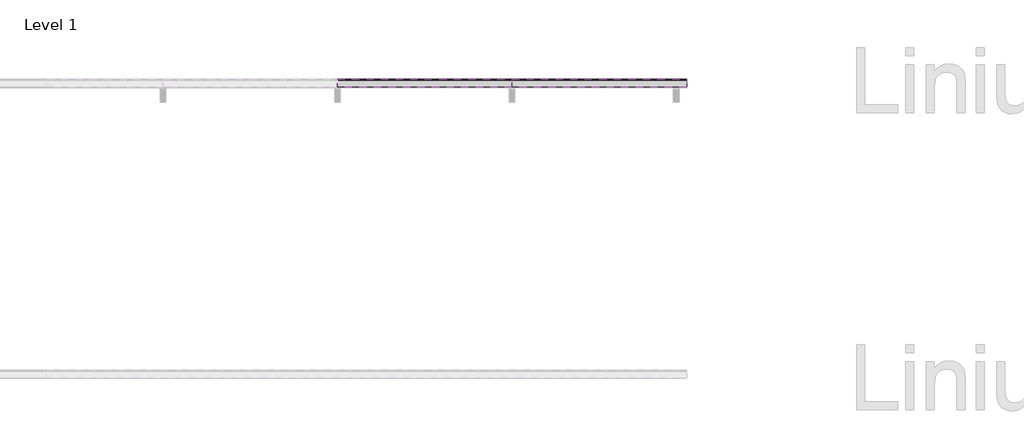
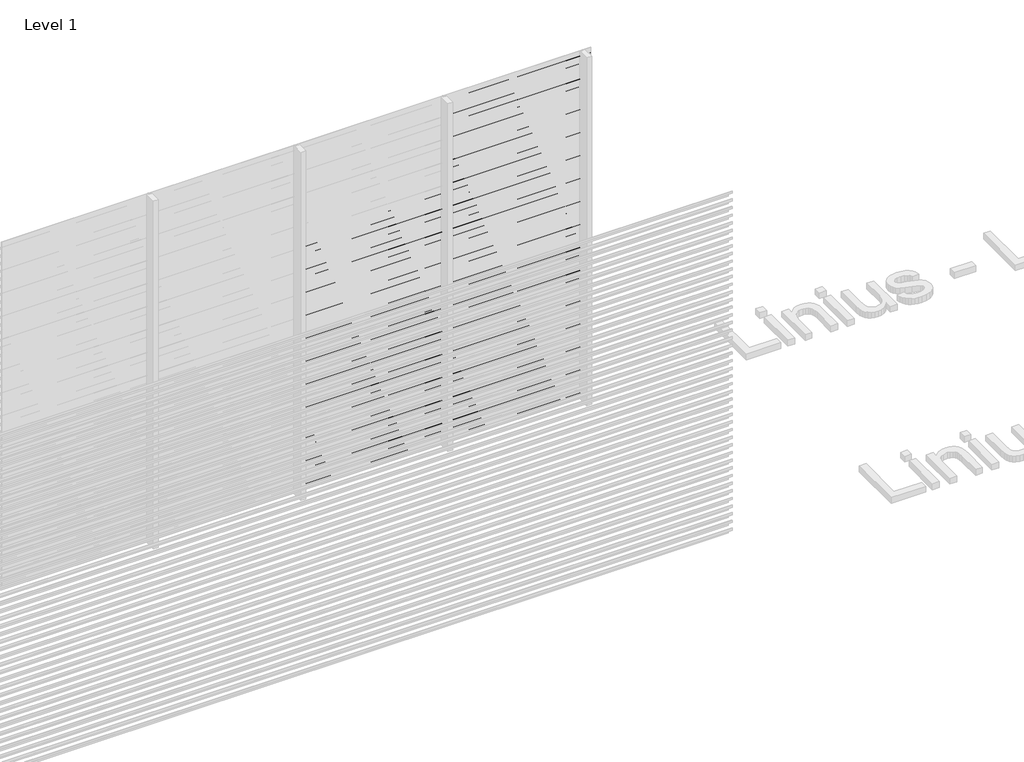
# One storey, part 39 of 540: 78 proxies.
"""IFC4 building model written with IfcOpenShell, lengths in millimetres."""

from ifc_helpers import new_model, si_unit, frame, origin, place, context, project, spatial, polyline, outline, extrude, element, save

model = new_model("IFC4")

# Units and contexts
model_context = context("Model", 3, world=origin())
ifc_project = project(units=[si_unit("LENGTHUNIT", "METRE", prefix="MILLI")], contexts=[model_context])

# Site, building, storey
site = spatial("IfcSite", under=ifc_project)
building = spatial("IfcBuilding", under=site)
storey = spatial("IfcBuildingStorey", under=building, Name="Level 1", Elevation=0.0)

# Proxies
placement = place(None, origin())
element("IfcBuildingElementProxy", 1, Name="Wall Sweeps", at=placement, inside=storey, context=model_context, shape_type="SweptSolid", body=[
    extrude(outline(polyline([(29081.0540136, 2913.5), (29081.0540136, 2893.5), (29079.8040136, 2894.2216933), (29079.8040136, 2912.7872415), (29026.0540136, 2950.3158044), (29026.0540136, 2970.0), (29027.3040136, 2970.0), (29027.3040136, 2951.0285629), (29081.0540136, 2913.5)])), frame((5266.6208095, 0.0, 0.0), z_axis=(1.0, 0.0, 0.0), x_axis=(0.0, 1.0, 0.0)), (0.0, 0.0, 1.0), 1200.0000002),
])
element("IfcBuildingElementProxy", 2, Name="Wall Sweeps", at=placement, inside=storey, context=model_context, shape_type="SweptSolid", body=[
    extrude(outline(polyline([(29081.0540136, 2847.5), (29081.0540136, 2827.5), (29079.8040136, 2828.2216933), (29079.8040136, 2846.7872415), (29026.0540136, 2884.3158044), (29026.0540136, 2904.0), (29027.3040136, 2904.0), (29027.3040136, 2885.0285629), (29081.0540136, 2847.5)])), frame((5266.6208095, 0.0, 0.0), z_axis=(1.0, 0.0, 0.0), x_axis=(0.0, 1.0, 0.0)), (0.0, 0.0, 1.0), 1200.0000002),
])
element("IfcBuildingElementProxy", 3, Name="Wall Sweeps", at=placement, inside=storey, context=model_context, shape_type="SweptSolid", body=[
    extrude(outline(polyline([(29081.0540136, 2781.5), (29081.0540136, 2761.5), (29079.8040136, 2762.2216933), (29079.8040136, 2780.7872415), (29026.0540136, 2818.3158044), (29026.0540136, 2838.0), (29027.3040136, 2838.0), (29027.3040136, 2819.0285629), (29081.0540136, 2781.5)])), frame((5266.6208095, 0.0, 0.0), z_axis=(1.0, 0.0, 0.0), x_axis=(0.0, 1.0, 0.0)), (0.0, 0.0, 1.0), 1200.0000002),
])
element("IfcBuildingElementProxy", 4, Name="Wall Sweeps", at=placement, inside=storey, context=model_context, shape_type="SweptSolid", body=[
    extrude(outline(polyline([(29081.0540136, 2715.5), (29081.0540136, 2695.5), (29079.8040136, 2696.2216933), (29079.8040136, 2714.7872415), (29026.0540136, 2752.3158044), (29026.0540136, 2772.0), (29027.3040136, 2772.0), (29027.3040136, 2753.0285629), (29081.0540136, 2715.5)])), frame((5266.6208095, 0.0, 0.0), z_axis=(1.0, 0.0, 0.0), x_axis=(0.0, 1.0, 0.0)), (0.0, 0.0, 1.0), 1200.0000002),
])
element("IfcBuildingElementProxy", 5, Name="Wall Sweeps", at=placement, inside=storey, context=model_context, shape_type="SweptSolid", body=[
    extrude(outline(polyline([(29081.0540136, 2649.5), (29081.0540136, 2629.5), (29079.8040136, 2630.2216933), (29079.8040136, 2648.7872415), (29026.0540136, 2686.3158044), (29026.0540136, 2706.0), (29027.3040136, 2706.0), (29027.3040136, 2687.0285629), (29081.0540136, 2649.5)])), frame((5266.6208095, 0.0, 0.0), z_axis=(1.0, 0.0, 0.0), x_axis=(0.0, 1.0, 0.0)), (0.0, 0.0, 1.0), 1200.0000002),
])
element("IfcBuildingElementProxy", 6, Name="Wall Sweeps", at=placement, inside=storey, context=model_context, shape_type="SweptSolid", body=[
    extrude(outline(polyline([(29081.0540136, 2583.5), (29081.0540136, 2563.5), (29079.8040136, 2564.2216933), (29079.8040136, 2582.7872415), (29026.0540136, 2620.3158044), (29026.0540136, 2640.0), (29027.3040136, 2640.0), (29027.3040136, 2621.0285629), (29081.0540136, 2583.5)])), frame((5266.6208095, 0.0, 0.0), z_axis=(1.0, 0.0, 0.0), x_axis=(0.0, 1.0, 0.0)), (0.0, 0.0, 1.0), 1200.0000002),
])
element("IfcBuildingElementProxy", 7, Name="Wall Sweeps", at=placement, inside=storey, context=model_context, shape_type="SweptSolid", body=[
    extrude(outline(polyline([(29081.0540136, 2517.5), (29081.0540136, 2497.5), (29079.8040136, 2498.2216933), (29079.8040136, 2516.7872415), (29026.0540136, 2554.3158044), (29026.0540136, 2574.0), (29027.3040136, 2574.0), (29027.3040136, 2555.0285629), (29081.0540136, 2517.5)])), frame((5266.6208095, 0.0, 0.0), z_axis=(1.0, 0.0, 0.0), x_axis=(0.0, 1.0, 0.0)), (0.0, 0.0, 1.0), 1200.0000002),
])
element("IfcBuildingElementProxy", 8, Name="Wall Sweeps", at=placement, inside=storey, context=model_context, shape_type="SweptSolid", body=[
    extrude(outline(polyline([(29081.0540136, 2451.5), (29081.0540136, 2431.5), (29079.8040136, 2432.2216933), (29079.8040136, 2450.7872415), (29026.0540136, 2488.3158044), (29026.0540136, 2508.0), (29027.3040136, 2508.0), (29027.3040136, 2489.0285629), (29081.0540136, 2451.5)])), frame((5266.6208095, 0.0, 0.0), z_axis=(1.0, 0.0, 0.0), x_axis=(0.0, 1.0, 0.0)), (0.0, 0.0, 1.0), 1200.0000002),
])
element("IfcBuildingElementProxy", 9, Name="Wall Sweeps", at=placement, inside=storey, context=model_context, shape_type="SweptSolid", body=[
    extrude(outline(polyline([(29081.0540136, 2385.5), (29081.0540136, 2365.5), (29079.8040136, 2366.2216933), (29079.8040136, 2384.7872415), (29026.0540136, 2422.3158044), (29026.0540136, 2442.0), (29027.3040136, 2442.0), (29027.3040136, 2423.0285629), (29081.0540136, 2385.5)])), frame((5266.6208095, 0.0, 0.0), z_axis=(1.0, 0.0, 0.0), x_axis=(0.0, 1.0, 0.0)), (0.0, 0.0, 1.0), 1200.0000002),
])
element("IfcBuildingElementProxy", 10, Name="Wall Sweeps", at=placement, inside=storey, context=model_context, shape_type="SweptSolid", body=[
    extrude(outline(polyline([(29081.0540136, 2319.5), (29081.0540136, 2299.5), (29079.8040136, 2300.2216933), (29079.8040136, 2318.7872415), (29026.0540136, 2356.3158044), (29026.0540136, 2376.0), (29027.3040136, 2376.0), (29027.3040136, 2357.0285629), (29081.0540136, 2319.5)])), frame((5266.6208095, 0.0, 0.0), z_axis=(1.0, 0.0, 0.0), x_axis=(0.0, 1.0, 0.0)), (0.0, 0.0, 1.0), 1200.0000002),
])
element("IfcBuildingElementProxy", 11, Name="Wall Sweeps", at=placement, inside=storey, context=model_context, shape_type="SweptSolid", body=[
    extrude(outline(polyline([(29081.0540136, 2253.5), (29081.0540136, 2233.5), (29079.8040136, 2234.2216933), (29079.8040136, 2252.7872415), (29026.0540136, 2290.3158044), (29026.0540136, 2310.0), (29027.3040136, 2310.0), (29027.3040136, 2291.0285629), (29081.0540136, 2253.5)])), frame((5266.6208095, 0.0, 0.0), z_axis=(1.0, 0.0, 0.0), x_axis=(0.0, 1.0, 0.0)), (0.0, 0.0, 1.0), 1200.0000002),
])
element("IfcBuildingElementProxy", 12, Name="Wall Sweeps", at=placement, inside=storey, context=model_context, shape_type="SweptSolid", body=[
    extrude(outline(polyline([(29081.0540136, 2187.5), (29081.0540136, 2167.5), (29079.8040136, 2168.2216933), (29079.8040136, 2186.7872415), (29026.0540136, 2224.3158044), (29026.0540136, 2244.0), (29027.3040136, 2244.0), (29027.3040136, 2225.0285629), (29081.0540136, 2187.5)])), frame((5266.6208095, 0.0, 0.0), z_axis=(1.0, 0.0, 0.0), x_axis=(0.0, 1.0, 0.0)), (0.0, 0.0, 1.0), 1200.0000002),
])
element("IfcBuildingElementProxy", 13, Name="Wall Sweeps", at=placement, inside=storey, context=model_context, shape_type="SweptSolid", body=[
    extrude(outline(polyline([(29081.0540136, 2121.5), (29081.0540136, 2101.5), (29079.8040136, 2102.2216933), (29079.8040136, 2120.7872415), (29026.0540136, 2158.3158044), (29026.0540136, 2178.0), (29027.3040136, 2178.0), (29027.3040136, 2159.0285629), (29081.0540136, 2121.5)])), frame((5266.6208095, 0.0, 0.0), z_axis=(1.0, 0.0, 0.0), x_axis=(0.0, 1.0, 0.0)), (0.0, 0.0, 1.0), 1200.0000002),
])
element("IfcBuildingElementProxy", 14, Name="Wall Sweeps", at=placement, inside=storey, context=model_context, shape_type="SweptSolid", body=[
    extrude(outline(polyline([(29081.0540136, 2055.5), (29081.0540136, 2035.5), (29079.8040136, 2036.2216933), (29079.8040136, 2054.7872415), (29026.0540136, 2092.3158044), (29026.0540136, 2112.0), (29027.3040136, 2112.0), (29027.3040136, 2093.0285629), (29081.0540136, 2055.5)])), frame((5266.6208095, 0.0, 0.0), z_axis=(1.0, 0.0, 0.0), x_axis=(0.0, 1.0, 0.0)), (0.0, 0.0, 1.0), 1200.0000002),
])
element("IfcBuildingElementProxy", 15, Name="Wall Sweeps", at=placement, inside=storey, context=model_context, shape_type="SweptSolid", body=[
    extrude(outline(polyline([(29081.0540136, 1989.5), (29081.0540136, 1969.5), (29079.8040136, 1970.2216933), (29079.8040136, 1988.7872415), (29026.0540136, 2026.3158044), (29026.0540136, 2046.0), (29027.3040136, 2046.0), (29027.3040136, 2027.0285629), (29081.0540136, 1989.5)])), frame((5266.6208095, 0.0, 0.0), z_axis=(1.0, 0.0, 0.0), x_axis=(0.0, 1.0, 0.0)), (0.0, 0.0, 1.0), 1200.0000002),
])
element("IfcBuildingElementProxy", 16, Name="Wall Sweeps", at=placement, inside=storey, context=model_context, shape_type="SweptSolid", body=[
    extrude(outline(polyline([(29081.0540136, 1923.5), (29081.0540136, 1903.5), (29079.8040136, 1904.2216933), (29079.8040136, 1922.7872415), (29026.0540136, 1960.3158044), (29026.0540136, 1980.0), (29027.3040136, 1980.0), (29027.3040136, 1961.0285629), (29081.0540136, 1923.5)])), frame((5266.6208095, 0.0, 0.0), z_axis=(1.0, 0.0, 0.0), x_axis=(0.0, 1.0, 0.0)), (0.0, 0.0, 1.0), 1200.0000002),
])
element("IfcBuildingElementProxy", 17, Name="Wall Sweeps", at=placement, inside=storey, context=model_context, shape_type="SweptSolid", body=[
    extrude(outline(polyline([(29081.0540136, 1857.5), (29081.0540136, 1837.5), (29079.8040136, 1838.2216933), (29079.8040136, 1856.7872415), (29026.0540136, 1894.3158044), (29026.0540136, 1914.0), (29027.3040136, 1914.0), (29027.3040136, 1895.0285629), (29081.0540136, 1857.5)])), frame((5266.6208095, 0.0, 0.0), z_axis=(1.0, 0.0, 0.0), x_axis=(0.0, 1.0, 0.0)), (0.0, 0.0, 1.0), 1200.0000002),
])
element("IfcBuildingElementProxy", 18, Name="Wall Sweeps", at=placement, inside=storey, context=model_context, shape_type="SweptSolid", body=[
    extrude(outline(polyline([(29081.0540136, 1791.5), (29081.0540136, 1771.5), (29079.8040136, 1772.2216933), (29079.8040136, 1790.7872415), (29026.0540136, 1828.3158044), (29026.0540136, 1848.0), (29027.3040136, 1848.0), (29027.3040136, 1829.0285629), (29081.0540136, 1791.5)])), frame((5266.6208095, 0.0, 0.0), z_axis=(1.0, 0.0, 0.0), x_axis=(0.0, 1.0, 0.0)), (0.0, 0.0, 1.0), 1200.0000002),
])
element("IfcBuildingElementProxy", 19, Name="Wall Sweeps", at=placement, inside=storey, context=model_context, shape_type="SweptSolid", body=[
    extrude(outline(polyline([(29081.0540136, 1725.5), (29081.0540136, 1705.5), (29079.8040136, 1706.2216933), (29079.8040136, 1724.7872415), (29026.0540136, 1762.3158044), (29026.0540136, 1782.0), (29027.3040136, 1782.0), (29027.3040136, 1763.0285629), (29081.0540136, 1725.5)])), frame((5266.6208095, 0.0, 0.0), z_axis=(1.0, 0.0, 0.0), x_axis=(0.0, 1.0, 0.0)), (0.0, 0.0, 1.0), 1200.0000002),
])
element("IfcBuildingElementProxy", 20, Name="Wall Sweeps", at=placement, inside=storey, context=model_context, shape_type="SweptSolid", body=[
    extrude(outline(polyline([(29081.0540136, 1659.5), (29081.0540136, 1639.5), (29079.8040136, 1640.2216933), (29079.8040136, 1658.7872415), (29026.0540136, 1696.3158044), (29026.0540136, 1716.0), (29027.3040136, 1716.0), (29027.3040136, 1697.0285629), (29081.0540136, 1659.5)])), frame((5266.6208095, 0.0, 0.0), z_axis=(1.0, 0.0, 0.0), x_axis=(0.0, 1.0, 0.0)), (0.0, 0.0, 1.0), 1200.0000002),
])
element("IfcBuildingElementProxy", 21, Name="Wall Sweeps", at=placement, inside=storey, context=model_context, shape_type="SweptSolid", body=[
    extrude(outline(polyline([(29081.0540136, 1593.5), (29081.0540136, 1573.5), (29079.8040136, 1574.2216933), (29079.8040136, 1592.7872415), (29026.0540136, 1630.3158044), (29026.0540136, 1650.0), (29027.3040136, 1650.0), (29027.3040136, 1631.0285629), (29081.0540136, 1593.5)])), frame((5266.6208095, 0.0, 0.0), z_axis=(1.0, 0.0, 0.0), x_axis=(0.0, 1.0, 0.0)), (0.0, 0.0, 1.0), 1200.0000002),
])
element("IfcBuildingElementProxy", 22, Name="Wall Sweeps", at=placement, inside=storey, context=model_context, shape_type="SweptSolid", body=[
    extrude(outline(polyline([(29081.0540136, 1527.5), (29081.0540136, 1507.5), (29079.8040136, 1508.2216933), (29079.8040136, 1526.7872415), (29026.0540136, 1564.3158044), (29026.0540136, 1584.0), (29027.3040136, 1584.0), (29027.3040136, 1565.0285629), (29081.0540136, 1527.5)])), frame((5266.6208095, 0.0, 0.0), z_axis=(1.0, 0.0, 0.0), x_axis=(0.0, 1.0, 0.0)), (0.0, 0.0, 1.0), 1200.0000002),
])
element("IfcBuildingElementProxy", 23, Name="Wall Sweeps", at=placement, inside=storey, context=model_context, shape_type="SweptSolid", body=[
    extrude(outline(polyline([(29081.0540136, 1461.5), (29081.0540136, 1441.5), (29079.8040136, 1442.2216933), (29079.8040136, 1460.7872415), (29026.0540136, 1498.3158044), (29026.0540136, 1518.0), (29027.3040136, 1518.0), (29027.3040136, 1499.0285629), (29081.0540136, 1461.5)])), frame((5266.6208095, 0.0, 0.0), z_axis=(1.0, 0.0, 0.0), x_axis=(0.0, 1.0, 0.0)), (0.0, 0.0, 1.0), 1200.0000002),
])
element("IfcBuildingElementProxy", 24, Name="Wall Sweeps", at=placement, inside=storey, context=model_context, shape_type="SweptSolid", body=[
    extrude(outline(polyline([(29081.0540136, 1395.5), (29081.0540136, 1375.5), (29079.8040136, 1376.2216933), (29079.8040136, 1394.7872415), (29026.0540136, 1432.3158044), (29026.0540136, 1452.0), (29027.3040136, 1452.0), (29027.3040136, 1433.0285629), (29081.0540136, 1395.5)])), frame((5266.6208095, 0.0, 0.0), z_axis=(1.0, 0.0, 0.0), x_axis=(0.0, 1.0, 0.0)), (0.0, 0.0, 1.0), 1200.0000002),
])
element("IfcBuildingElementProxy", 25, Name="Wall Sweeps", at=placement, inside=storey, context=model_context, shape_type="SweptSolid", body=[
    extrude(outline(polyline([(29081.0540136, 1329.5), (29081.0540136, 1309.5), (29079.8040136, 1310.2216933), (29079.8040136, 1328.7872415), (29026.0540136, 1366.3158044), (29026.0540136, 1386.0), (29027.3040136, 1386.0), (29027.3040136, 1367.0285629), (29081.0540136, 1329.5)])), frame((5266.6208095, 0.0, 0.0), z_axis=(1.0, 0.0, 0.0), x_axis=(0.0, 1.0, 0.0)), (0.0, 0.0, 1.0), 1200.0000002),
])
element("IfcBuildingElementProxy", 26, Name="Wall Sweeps", at=placement, inside=storey, context=model_context, shape_type="SweptSolid", body=[
    extrude(outline(polyline([(29081.0540136, 1263.5), (29081.0540136, 1243.5), (29079.8040136, 1244.2216933), (29079.8040136, 1262.7872415), (29026.0540136, 1300.3158044), (29026.0540136, 1320.0), (29027.3040136, 1320.0), (29027.3040136, 1301.0285629), (29081.0540136, 1263.5)])), frame((5266.6208095, 0.0, 0.0), z_axis=(1.0, 0.0, 0.0), x_axis=(0.0, 1.0, 0.0)), (0.0, 0.0, 1.0), 1200.0000002),
])
element("IfcBuildingElementProxy", 27, Name="Wall Sweeps", at=placement, inside=storey, context=model_context, shape_type="SweptSolid", body=[
    extrude(outline(polyline([(29081.0540136, 1197.5), (29081.0540136, 1177.5), (29079.8040136, 1178.2216933), (29079.8040136, 1196.7872415), (29026.0540136, 1234.3158044), (29026.0540136, 1254.0), (29027.3040136, 1254.0), (29027.3040136, 1235.0285629), (29081.0540136, 1197.5)])), frame((5266.6208095, 0.0, 0.0), z_axis=(1.0, 0.0, 0.0), x_axis=(0.0, 1.0, 0.0)), (0.0, 0.0, 1.0), 1200.0000002),
])
element("IfcBuildingElementProxy", 28, Name="Wall Sweeps", at=placement, inside=storey, context=model_context, shape_type="SweptSolid", body=[
    extrude(outline(polyline([(29081.0540136, 1131.5), (29081.0540136, 1111.5), (29079.8040136, 1112.2216933), (29079.8040136, 1130.7872415), (29026.0540136, 1168.3158044), (29026.0540136, 1188.0), (29027.3040136, 1188.0), (29027.3040136, 1169.0285629), (29081.0540136, 1131.5)])), frame((5266.6208095, 0.0, 0.0), z_axis=(1.0, 0.0, 0.0), x_axis=(0.0, 1.0, 0.0)), (0.0, 0.0, 1.0), 1200.0000002),
])
element("IfcBuildingElementProxy", 29, Name="Wall Sweeps", at=placement, inside=storey, context=model_context, shape_type="SweptSolid", body=[
    extrude(outline(polyline([(29081.0540136, 1065.5), (29081.0540136, 1045.5), (29079.8040136, 1046.2216933), (29079.8040136, 1064.7872415), (29026.0540136, 1102.3158044), (29026.0540136, 1122.0), (29027.3040136, 1122.0), (29027.3040136, 1103.0285629), (29081.0540136, 1065.5)])), frame((5266.6208095, 0.0, 0.0), z_axis=(1.0, 0.0, 0.0), x_axis=(0.0, 1.0, 0.0)), (0.0, 0.0, 1.0), 1200.0000002),
])
element("IfcBuildingElementProxy", 30, Name="Wall Sweeps", at=placement, inside=storey, context=model_context, shape_type="SweptSolid", body=[
    extrude(outline(polyline([(29081.0540136, 999.5), (29081.0540136, 979.5), (29079.8040136, 980.2216933), (29079.8040136, 998.7872415), (29026.0540136, 1036.3158044), (29026.0540136, 1056.0), (29027.3040136, 1056.0), (29027.3040136, 1037.0285629), (29081.0540136, 999.5)])), frame((5266.6208095, 0.0, 0.0), z_axis=(1.0, 0.0, 0.0), x_axis=(0.0, 1.0, 0.0)), (0.0, 0.0, 1.0), 1200.0000002),
])
element("IfcBuildingElementProxy", 31, Name="Wall Sweeps", at=placement, inside=storey, context=model_context, shape_type="SweptSolid", body=[
    extrude(outline(polyline([(29081.0540136, 933.5), (29081.0540136, 913.5), (29079.8040136, 914.2216933), (29079.8040136, 932.7872415), (29026.0540136, 970.3158044), (29026.0540136, 990.0), (29027.3040136, 990.0), (29027.3040136, 971.0285629), (29081.0540136, 933.5)])), frame((5266.6208095, 0.0, 0.0), z_axis=(1.0, 0.0, 0.0), x_axis=(0.0, 1.0, 0.0)), (0.0, 0.0, 1.0), 1200.0000002),
])
element("IfcBuildingElementProxy", 32, Name="Wall Sweeps", at=placement, inside=storey, context=model_context, shape_type="SweptSolid", body=[
    extrude(outline(polyline([(29081.0540136, 867.5), (29081.0540136, 847.5), (29079.8040136, 848.2216933), (29079.8040136, 866.7872415), (29026.0540136, 904.3158044), (29026.0540136, 924.0), (29027.3040136, 924.0), (29027.3040136, 905.0285629), (29081.0540136, 867.5)])), frame((5266.6208095, 0.0, 0.0), z_axis=(1.0, 0.0, 0.0), x_axis=(0.0, 1.0, 0.0)), (0.0, 0.0, 1.0), 1200.0000002),
])
element("IfcBuildingElementProxy", 33, Name="Wall Sweeps", at=placement, inside=storey, context=model_context, shape_type="SweptSolid", body=[
    extrude(outline(polyline([(29081.0540136, 801.5), (29081.0540136, 781.5), (29079.8040136, 782.2216933), (29079.8040136, 800.7872415), (29026.0540136, 838.3158044), (29026.0540136, 858.0), (29027.3040136, 858.0), (29027.3040136, 839.0285629), (29081.0540136, 801.5)])), frame((5266.6208095, 0.0, 0.0), z_axis=(1.0, 0.0, 0.0), x_axis=(0.0, 1.0, 0.0)), (0.0, 0.0, 1.0), 1200.0000002),
])
element("IfcBuildingElementProxy", 34, Name="Wall Sweeps", at=placement, inside=storey, context=model_context, shape_type="SweptSolid", body=[
    extrude(outline(polyline([(29081.0540136, 735.5), (29081.0540136, 715.5), (29079.8040136, 716.2216933), (29079.8040136, 734.7872415), (29026.0540136, 772.3158044), (29026.0540136, 792.0), (29027.3040136, 792.0), (29027.3040136, 773.0285629), (29081.0540136, 735.5)])), frame((5266.6208095, 0.0, 0.0), z_axis=(1.0, 0.0, 0.0), x_axis=(0.0, 1.0, 0.0)), (0.0, 0.0, 1.0), 1200.0000002),
])
element("IfcBuildingElementProxy", 35, Name="Wall Sweeps", at=placement, inside=storey, context=model_context, shape_type="SweptSolid", body=[
    extrude(outline(polyline([(29081.0540136, 669.5), (29081.0540136, 649.5), (29079.8040136, 650.2216933), (29079.8040136, 668.7872415), (29026.0540136, 706.3158044), (29026.0540136, 726.0), (29027.3040136, 726.0), (29027.3040136, 707.0285629), (29081.0540136, 669.5)])), frame((5266.6208095, 0.0, 0.0), z_axis=(1.0, 0.0, 0.0), x_axis=(0.0, 1.0, 0.0)), (0.0, 0.0, 1.0), 1200.0000002),
])
element("IfcBuildingElementProxy", 36, Name="Wall Sweeps", at=placement, inside=storey, context=model_context, shape_type="SweptSolid", body=[
    extrude(outline(polyline([(29081.0540136, 603.5), (29081.0540136, 583.5), (29079.8040136, 584.2216933), (29079.8040136, 602.7872415), (29026.0540136, 640.3158044), (29026.0540136, 660.0), (29027.3040136, 660.0), (29027.3040136, 641.0285629), (29081.0540136, 603.5)])), frame((5266.6208095, 0.0, 0.0), z_axis=(1.0, 0.0, 0.0), x_axis=(0.0, 1.0, 0.0)), (0.0, 0.0, 1.0), 1200.0000002),
])
element("IfcBuildingElementProxy", 37, Name="Wall Sweeps", at=placement, inside=storey, context=model_context, shape_type="SweptSolid", body=[
    extrude(outline(polyline([(29081.0540136, 537.5), (29081.0540136, 517.5), (29079.8040136, 518.2216933), (29079.8040136, 536.7872415), (29026.0540136, 574.3158044), (29026.0540136, 594.0), (29027.3040136, 594.0), (29027.3040136, 575.0285629), (29081.0540136, 537.5)])), frame((5266.6208095, 0.0, 0.0), z_axis=(1.0, 0.0, 0.0), x_axis=(0.0, 1.0, 0.0)), (0.0, 0.0, 1.0), 1200.0000002),
])
element("IfcBuildingElementProxy", 38, Name="Wall Sweeps", at=placement, inside=storey, context=model_context, shape_type="SweptSolid", body=[
    extrude(outline(polyline([(29081.0540136, 471.5), (29081.0540136, 451.5), (29079.8040136, 452.2216933), (29079.8040136, 470.7872415), (29026.0540136, 508.3158044), (29026.0540136, 528.0), (29027.3040136, 528.0), (29027.3040136, 509.0285629), (29081.0540136, 471.5)])), frame((5266.6208095, 0.0, 0.0), z_axis=(1.0, 0.0, 0.0), x_axis=(0.0, 1.0, 0.0)), (0.0, 0.0, 1.0), 1200.0000002),
])
element("IfcBuildingElementProxy", 39, Name="Wall Sweeps", at=placement, inside=storey, context=model_context, shape_type="SweptSolid", body=[
    extrude(outline(polyline([(29081.0540136, 405.5), (29081.0540136, 385.5), (29079.8040136, 386.2216933), (29079.8040136, 404.7872415), (29026.0540136, 442.3158044), (29026.0540136, 462.0), (29027.3040136, 462.0), (29027.3040136, 443.0285629), (29081.0540136, 405.5)])), frame((5266.6208095, 0.0, 0.0), z_axis=(1.0, 0.0, 0.0), x_axis=(0.0, 1.0, 0.0)), (0.0, 0.0, 1.0), 1200.0000002),
])
element("IfcBuildingElementProxy", 40, Name="Wall Sweeps", at=placement, inside=storey, context=model_context, shape_type="SweptSolid", body=[
    extrude(outline(polyline([(29081.0540136, 339.5), (29081.0540136, 319.5), (29079.8040136, 320.2216933), (29079.8040136, 338.7872415), (29026.0540136, 376.3158044), (29026.0540136, 396.0), (29027.3040136, 396.0), (29027.3040136, 377.0285629), (29081.0540136, 339.5)])), frame((5266.6208095, 0.0, 0.0), z_axis=(1.0, 0.0, 0.0), x_axis=(0.0, 1.0, 0.0)), (0.0, 0.0, 1.0), 1200.0000002),
])
element("IfcBuildingElementProxy", 41, Name="Wall Sweeps", at=placement, inside=storey, context=model_context, shape_type="SweptSolid", body=[
    extrude(outline(polyline([(29081.0540136, 273.5), (29081.0540136, 253.5), (29079.8040136, 254.2216933), (29079.8040136, 272.7872415), (29026.0540136, 310.3158044), (29026.0540136, 330.0), (29027.3040136, 330.0), (29027.3040136, 311.0285629), (29081.0540136, 273.5)])), frame((5266.6208095, 0.0, 0.0), z_axis=(1.0, 0.0, 0.0), x_axis=(0.0, 1.0, 0.0)), (0.0, 0.0, 1.0), 1200.0000002),
])
element("IfcBuildingElementProxy", 42, Name="Wall Sweeps", at=placement, inside=storey, context=model_context, shape_type="SweptSolid", body=[
    extrude(outline(polyline([(29081.0540136, 207.5), (29081.0540136, 187.5), (29079.8040136, 188.2216933), (29079.8040136, 206.7872415), (29026.0540136, 244.3158044), (29026.0540136, 264.0), (29027.3040136, 264.0), (29027.3040136, 245.0285629), (29081.0540136, 207.5)])), frame((5266.6208095, 0.0, 0.0), z_axis=(1.0, 0.0, 0.0), x_axis=(0.0, 1.0, 0.0)), (0.0, 0.0, 1.0), 1200.0000002),
])
element("IfcBuildingElementProxy", 43, Name="Wall Sweeps", at=placement, inside=storey, context=model_context, shape_type="SweptSolid", body=[
    extrude(outline(polyline([(29081.0540136, 141.5), (29081.0540136, 121.5), (29079.8040136, 122.2216933), (29079.8040136, 140.7872415), (29026.0540136, 178.3158044), (29026.0540136, 198.0), (29027.3040136, 198.0), (29027.3040136, 179.0285629), (29081.0540136, 141.5)])), frame((5266.6208095, 0.0, 0.0), z_axis=(1.0, 0.0, 0.0), x_axis=(0.0, 1.0, 0.0)), (0.0, 0.0, 1.0), 1200.0000002),
])
element("IfcBuildingElementProxy", 44, Name="Wall Sweeps", at=placement, inside=storey, context=model_context, shape_type="SweptSolid", body=[
    extrude(outline(polyline([(29081.0540136, 75.5), (29081.0540136, 55.5), (29079.8040136, 56.2216933), (29079.8040136, 74.7872415), (29026.0540136, 112.3158044), (29026.0540136, 132.0), (29027.3040136, 132.0), (29027.3040136, 113.0285629), (29081.0540136, 75.5)])), frame((5266.6208095, 0.0, 0.0), z_axis=(1.0, 0.0, 0.0), x_axis=(0.0, 1.0, 0.0)), (0.0, 0.0, 1.0), 1200.0000002),
])
element("IfcBuildingElementProxy", 45, Name="Wall Sweeps", at=placement, inside=storey, context=model_context, shape_type="SweptSolid", body=[
    extrude(outline(polyline([(29081.0540136, 9.5), (29081.0540136, -10.5), (29079.8040136, -9.7783067), (29079.8040136, 8.7872415), (29026.0540136, 46.3158044), (29026.0540136, 66.0), (29027.3040136, 66.0), (29027.3040136, 47.0285629), (29081.0540136, 9.5)])), frame((5266.6208095, 0.0, 0.0), z_axis=(1.0, 0.0, 0.0), x_axis=(0.0, 1.0, 0.0)), (0.0, 0.0, 1.0), 1200.0000002),
])
element("IfcBuildingElementProxy", 46, Name="Wall Sweeps", at=placement, inside=storey, context=model_context, shape_type="SweptSolid", body=[
    extrude(outline(polyline([(29081.0540136, 2121.5), (29081.0540136, 2101.5), (29079.8040136, 2102.2216933), (29079.8040136, 2120.7872415), (29026.0540136, 2158.3158044), (29026.0540136, 2178.0), (29027.3040136, 2178.0), (29027.3040136, 2159.0285629), (29081.0540136, 2121.5)])), frame((4066.6208096, 0.0, 0.0), z_axis=(1.0, 0.0, 0.0), x_axis=(0.0, 1.0, 0.0)), (0.0, 0.0, 1.0), 1199.9999999),
])
element("IfcBuildingElementProxy", 47, Name="Wall Sweeps", at=placement, inside=storey, context=model_context, shape_type="SweptSolid", body=[
    extrude(outline(polyline([(29081.0540136, 2055.5), (29081.0540136, 2035.5), (29079.8040136, 2036.2216933), (29079.8040136, 2054.7872415), (29026.0540136, 2092.3158044), (29026.0540136, 2112.0), (29027.3040136, 2112.0), (29027.3040136, 2093.0285629), (29081.0540136, 2055.5)])), frame((4066.6208096, 0.0, 0.0), z_axis=(1.0, 0.0, 0.0), x_axis=(0.0, 1.0, 0.0)), (0.0, 0.0, 1.0), 1199.9999999),
])
element("IfcBuildingElementProxy", 48, Name="Wall Sweeps", at=placement, inside=storey, context=model_context, shape_type="SweptSolid", body=[
    extrude(outline(polyline([(29081.0540136, 1989.5), (29081.0540136, 1969.5), (29079.8040136, 1970.2216933), (29079.8040136, 1988.7872415), (29026.0540136, 2026.3158044), (29026.0540136, 2046.0), (29027.3040136, 2046.0), (29027.3040136, 2027.0285629), (29081.0540136, 1989.5)])), frame((4066.6208096, 0.0, 0.0), z_axis=(1.0, 0.0, 0.0), x_axis=(0.0, 1.0, 0.0)), (0.0, 0.0, 1.0), 1199.9999999),
])
element("IfcBuildingElementProxy", 49, Name="Wall Sweeps", at=placement, inside=storey, context=model_context, shape_type="SweptSolid", body=[
    extrude(outline(polyline([(29081.0540136, 1923.5), (29081.0540136, 1903.5), (29079.8040136, 1904.2216933), (29079.8040136, 1922.7872415), (29026.0540136, 1960.3158044), (29026.0540136, 1980.0), (29027.3040136, 1980.0), (29027.3040136, 1961.0285629), (29081.0540136, 1923.5)])), frame((4066.6208096, 0.0, 0.0), z_axis=(1.0, 0.0, 0.0), x_axis=(0.0, 1.0, 0.0)), (0.0, 0.0, 1.0), 1199.9999999),
])
element("IfcBuildingElementProxy", 50, Name="Wall Sweeps", at=placement, inside=storey, context=model_context, shape_type="SweptSolid", body=[
    extrude(outline(polyline([(29081.0540136, 1857.5), (29081.0540136, 1837.5), (29079.8040136, 1838.2216933), (29079.8040136, 1856.7872415), (29026.0540136, 1894.3158044), (29026.0540136, 1914.0), (29027.3040136, 1914.0), (29027.3040136, 1895.0285629), (29081.0540136, 1857.5)])), frame((4066.6208096, 0.0, 0.0), z_axis=(1.0, 0.0, 0.0), x_axis=(0.0, 1.0, 0.0)), (0.0, 0.0, 1.0), 1199.9999999),
])
element("IfcBuildingElementProxy", 51, Name="Wall Sweeps", at=placement, inside=storey, context=model_context, shape_type="SweptSolid", body=[
    extrude(outline(polyline([(29081.0540136, 1791.5), (29081.0540136, 1771.5), (29079.8040136, 1772.2216933), (29079.8040136, 1790.7872415), (29026.0540136, 1828.3158044), (29026.0540136, 1848.0), (29027.3040136, 1848.0), (29027.3040136, 1829.0285629), (29081.0540136, 1791.5)])), frame((4066.6208096, 0.0, 0.0), z_axis=(1.0, 0.0, 0.0), x_axis=(0.0, 1.0, 0.0)), (0.0, 0.0, 1.0), 1199.9999999),
])
element("IfcBuildingElementProxy", 52, Name="Wall Sweeps", at=placement, inside=storey, context=model_context, shape_type="SweptSolid", body=[
    extrude(outline(polyline([(29081.0540136, 1725.5), (29081.0540136, 1705.5), (29079.8040136, 1706.2216933), (29079.8040136, 1724.7872415), (29026.0540136, 1762.3158044), (29026.0540136, 1782.0), (29027.3040136, 1782.0), (29027.3040136, 1763.0285629), (29081.0540136, 1725.5)])), frame((4066.6208096, 0.0, 0.0), z_axis=(1.0, 0.0, 0.0), x_axis=(0.0, 1.0, 0.0)), (0.0, 0.0, 1.0), 1199.9999999),
])
element("IfcBuildingElementProxy", 53, Name="Wall Sweeps", at=placement, inside=storey, context=model_context, shape_type="SweptSolid", body=[
    extrude(outline(polyline([(29081.0540136, 1659.5), (29081.0540136, 1639.5), (29079.8040136, 1640.2216933), (29079.8040136, 1658.7872415), (29026.0540136, 1696.3158044), (29026.0540136, 1716.0), (29027.3040136, 1716.0), (29027.3040136, 1697.0285629), (29081.0540136, 1659.5)])), frame((4066.6208096, 0.0, 0.0), z_axis=(1.0, 0.0, 0.0), x_axis=(0.0, 1.0, 0.0)), (0.0, 0.0, 1.0), 1199.9999999),
])
element("IfcBuildingElementProxy", 54, Name="Wall Sweeps", at=placement, inside=storey, context=model_context, shape_type="SweptSolid", body=[
    extrude(outline(polyline([(29081.0540136, 1593.5), (29081.0540136, 1573.5), (29079.8040136, 1574.2216933), (29079.8040136, 1592.7872415), (29026.0540136, 1630.3158044), (29026.0540136, 1650.0), (29027.3040136, 1650.0), (29027.3040136, 1631.0285629), (29081.0540136, 1593.5)])), frame((4066.6208096, 0.0, 0.0), z_axis=(1.0, 0.0, 0.0), x_axis=(0.0, 1.0, 0.0)), (0.0, 0.0, 1.0), 1199.9999999),
])
element("IfcBuildingElementProxy", 55, Name="Wall Sweeps", at=placement, inside=storey, context=model_context, shape_type="SweptSolid", body=[
    extrude(outline(polyline([(29081.0540136, 1527.5), (29081.0540136, 1507.5), (29079.8040136, 1508.2216933), (29079.8040136, 1526.7872415), (29026.0540136, 1564.3158044), (29026.0540136, 1584.0), (29027.3040136, 1584.0), (29027.3040136, 1565.0285629), (29081.0540136, 1527.5)])), frame((4066.6208096, 0.0, 0.0), z_axis=(1.0, 0.0, 0.0), x_axis=(0.0, 1.0, 0.0)), (0.0, 0.0, 1.0), 1199.9999999),
])
element("IfcBuildingElementProxy", 56, Name="Wall Sweeps", at=placement, inside=storey, context=model_context, shape_type="SweptSolid", body=[
    extrude(outline(polyline([(29081.0540136, 1461.5), (29081.0540136, 1441.5), (29079.8040136, 1442.2216933), (29079.8040136, 1460.7872415), (29026.0540136, 1498.3158044), (29026.0540136, 1518.0), (29027.3040136, 1518.0), (29027.3040136, 1499.0285629), (29081.0540136, 1461.5)])), frame((4066.6208096, 0.0, 0.0), z_axis=(1.0, 0.0, 0.0), x_axis=(0.0, 1.0, 0.0)), (0.0, 0.0, 1.0), 1199.9999999),
])
element("IfcBuildingElementProxy", 57, Name="Wall Sweeps", at=placement, inside=storey, context=model_context, shape_type="SweptSolid", body=[
    extrude(outline(polyline([(29081.0540136, 1395.5), (29081.0540136, 1375.5), (29079.8040136, 1376.2216933), (29079.8040136, 1394.7872415), (29026.0540136, 1432.3158044), (29026.0540136, 1452.0), (29027.3040136, 1452.0), (29027.3040136, 1433.0285629), (29081.0540136, 1395.5)])), frame((4066.6208096, 0.0, 0.0), z_axis=(1.0, 0.0, 0.0), x_axis=(0.0, 1.0, 0.0)), (0.0, 0.0, 1.0), 1199.9999999),
])
element("IfcBuildingElementProxy", 58, Name="Wall Sweeps", at=placement, inside=storey, context=model_context, shape_type="SweptSolid", body=[
    extrude(outline(polyline([(29081.0540136, 1329.5), (29081.0540136, 1309.5), (29079.8040136, 1310.2216933), (29079.8040136, 1328.7872415), (29026.0540136, 1366.3158044), (29026.0540136, 1386.0), (29027.3040136, 1386.0), (29027.3040136, 1367.0285629), (29081.0540136, 1329.5)])), frame((4066.6208096, 0.0, 0.0), z_axis=(1.0, 0.0, 0.0), x_axis=(0.0, 1.0, 0.0)), (0.0, 0.0, 1.0), 1199.9999999),
])
element("IfcBuildingElementProxy", 59, Name="Wall Sweeps", at=placement, inside=storey, context=model_context, shape_type="SweptSolid", body=[
    extrude(outline(polyline([(29081.0540136, 1263.5), (29081.0540136, 1243.5), (29079.8040136, 1244.2216933), (29079.8040136, 1262.7872415), (29026.0540136, 1300.3158044), (29026.0540136, 1320.0), (29027.3040136, 1320.0), (29027.3040136, 1301.0285629), (29081.0540136, 1263.5)])), frame((4066.6208096, 0.0, 0.0), z_axis=(1.0, 0.0, 0.0), x_axis=(0.0, 1.0, 0.0)), (0.0, 0.0, 1.0), 1199.9999999),
])
element("IfcBuildingElementProxy", 60, Name="Wall Sweeps", at=placement, inside=storey, context=model_context, shape_type="SweptSolid", body=[
    extrude(outline(polyline([(29081.0540136, 1197.5), (29081.0540136, 1177.5), (29079.8040136, 1178.2216933), (29079.8040136, 1196.7872415), (29026.0540136, 1234.3158044), (29026.0540136, 1254.0), (29027.3040136, 1254.0), (29027.3040136, 1235.0285629), (29081.0540136, 1197.5)])), frame((4066.6208096, 0.0, 0.0), z_axis=(1.0, 0.0, 0.0), x_axis=(0.0, 1.0, 0.0)), (0.0, 0.0, 1.0), 1199.9999999),
])
element("IfcBuildingElementProxy", 61, Name="Wall Sweeps", at=placement, inside=storey, context=model_context, shape_type="SweptSolid", body=[
    extrude(outline(polyline([(29081.0540136, 1131.5), (29081.0540136, 1111.5), (29079.8040136, 1112.2216933), (29079.8040136, 1130.7872415), (29026.0540136, 1168.3158044), (29026.0540136, 1188.0), (29027.3040136, 1188.0), (29027.3040136, 1169.0285629), (29081.0540136, 1131.5)])), frame((4066.6208096, 0.0, 0.0), z_axis=(1.0, 0.0, 0.0), x_axis=(0.0, 1.0, 0.0)), (0.0, 0.0, 1.0), 1199.9999999),
])
element("IfcBuildingElementProxy", 62, Name="Wall Sweeps", at=placement, inside=storey, context=model_context, shape_type="SweptSolid", body=[
    extrude(outline(polyline([(29081.0540136, 1065.5), (29081.0540136, 1045.5), (29079.8040136, 1046.2216933), (29079.8040136, 1064.7872415), (29026.0540136, 1102.3158044), (29026.0540136, 1122.0), (29027.3040136, 1122.0), (29027.3040136, 1103.0285629), (29081.0540136, 1065.5)])), frame((4066.6208096, 0.0, 0.0), z_axis=(1.0, 0.0, 0.0), x_axis=(0.0, 1.0, 0.0)), (0.0, 0.0, 1.0), 1199.9999999),
])
element("IfcBuildingElementProxy", 63, Name="Wall Sweeps", at=placement, inside=storey, context=model_context, shape_type="SweptSolid", body=[
    extrude(outline(polyline([(29081.0540136, 999.5), (29081.0540136, 979.5), (29079.8040136, 980.2216933), (29079.8040136, 998.7872415), (29026.0540136, 1036.3158044), (29026.0540136, 1056.0), (29027.3040136, 1056.0), (29027.3040136, 1037.0285629), (29081.0540136, 999.5)])), frame((4066.6208096, 0.0, 0.0), z_axis=(1.0, 0.0, 0.0), x_axis=(0.0, 1.0, 0.0)), (0.0, 0.0, 1.0), 1199.9999999),
])
element("IfcBuildingElementProxy", 64, Name="Wall Sweeps", at=placement, inside=storey, context=model_context, shape_type="SweptSolid", body=[
    extrude(outline(polyline([(29081.0540136, 933.5), (29081.0540136, 913.5), (29079.8040136, 914.2216933), (29079.8040136, 932.7872415), (29026.0540136, 970.3158044), (29026.0540136, 990.0), (29027.3040136, 990.0), (29027.3040136, 971.0285629), (29081.0540136, 933.5)])), frame((4066.6208096, 0.0, 0.0), z_axis=(1.0, 0.0, 0.0), x_axis=(0.0, 1.0, 0.0)), (0.0, 0.0, 1.0), 1199.9999999),
])
element("IfcBuildingElementProxy", 65, Name="Wall Sweeps", at=placement, inside=storey, context=model_context, shape_type="SweptSolid", body=[
    extrude(outline(polyline([(29081.0540136, 867.5), (29081.0540136, 847.5), (29079.8040136, 848.2216933), (29079.8040136, 866.7872415), (29026.0540136, 904.3158044), (29026.0540136, 924.0), (29027.3040136, 924.0), (29027.3040136, 905.0285629), (29081.0540136, 867.5)])), frame((4066.6208096, 0.0, 0.0), z_axis=(1.0, 0.0, 0.0), x_axis=(0.0, 1.0, 0.0)), (0.0, 0.0, 1.0), 1199.9999999),
])
element("IfcBuildingElementProxy", 66, Name="Wall Sweeps", at=placement, inside=storey, context=model_context, shape_type="SweptSolid", body=[
    extrude(outline(polyline([(29081.0540136, 801.5), (29081.0540136, 781.5), (29079.8040136, 782.2216933), (29079.8040136, 800.7872415), (29026.0540136, 838.3158044), (29026.0540136, 858.0), (29027.3040136, 858.0), (29027.3040136, 839.0285629), (29081.0540136, 801.5)])), frame((4066.6208096, 0.0, 0.0), z_axis=(1.0, 0.0, 0.0), x_axis=(0.0, 1.0, 0.0)), (0.0, 0.0, 1.0), 1199.9999999),
])
element("IfcBuildingElementProxy", 67, Name="Wall Sweeps", at=placement, inside=storey, context=model_context, shape_type="SweptSolid", body=[
    extrude(outline(polyline([(29081.0540136, 735.5), (29081.0540136, 715.5), (29079.8040136, 716.2216933), (29079.8040136, 734.7872415), (29026.0540136, 772.3158044), (29026.0540136, 792.0), (29027.3040136, 792.0), (29027.3040136, 773.0285629), (29081.0540136, 735.5)])), frame((4066.6208096, 0.0, 0.0), z_axis=(1.0, 0.0, 0.0), x_axis=(0.0, 1.0, 0.0)), (0.0, 0.0, 1.0), 1199.9999999),
])
element("IfcBuildingElementProxy", 68, Name="Wall Sweeps", at=placement, inside=storey, context=model_context, shape_type="SweptSolid", body=[
    extrude(outline(polyline([(29081.0540136, 669.5), (29081.0540136, 649.5), (29079.8040136, 650.2216933), (29079.8040136, 668.7872415), (29026.0540136, 706.3158044), (29026.0540136, 726.0), (29027.3040136, 726.0), (29027.3040136, 707.0285629), (29081.0540136, 669.5)])), frame((4066.6208096, 0.0, 0.0), z_axis=(1.0, 0.0, 0.0), x_axis=(0.0, 1.0, 0.0)), (0.0, 0.0, 1.0), 1199.9999999),
])
element("IfcBuildingElementProxy", 69, Name="Wall Sweeps", at=placement, inside=storey, context=model_context, shape_type="SweptSolid", body=[
    extrude(outline(polyline([(29081.0540136, 603.5), (29081.0540136, 583.5), (29079.8040136, 584.2216933), (29079.8040136, 602.7872415), (29026.0540136, 640.3158044), (29026.0540136, 660.0), (29027.3040136, 660.0), (29027.3040136, 641.0285629), (29081.0540136, 603.5)])), frame((4066.6208096, 0.0, 0.0), z_axis=(1.0, 0.0, 0.0), x_axis=(0.0, 1.0, 0.0)), (0.0, 0.0, 1.0), 1199.9999999),
])
element("IfcBuildingElementProxy", 70, Name="Wall Sweeps", at=placement, inside=storey, context=model_context, shape_type="SweptSolid", body=[
    extrude(outline(polyline([(29081.0540136, 537.5), (29081.0540136, 517.5), (29079.8040136, 518.2216933), (29079.8040136, 536.7872415), (29026.0540136, 574.3158044), (29026.0540136, 594.0), (29027.3040136, 594.0), (29027.3040136, 575.0285629), (29081.0540136, 537.5)])), frame((4066.6208096, 0.0, 0.0), z_axis=(1.0, 0.0, 0.0), x_axis=(0.0, 1.0, 0.0)), (0.0, 0.0, 1.0), 1199.9999999),
])
element("IfcBuildingElementProxy", 71, Name="Wall Sweeps", at=placement, inside=storey, context=model_context, shape_type="SweptSolid", body=[
    extrude(outline(polyline([(29081.0540136, 471.5), (29081.0540136, 451.5), (29079.8040136, 452.2216933), (29079.8040136, 470.7872415), (29026.0540136, 508.3158044), (29026.0540136, 528.0), (29027.3040136, 528.0), (29027.3040136, 509.0285629), (29081.0540136, 471.5)])), frame((4066.6208096, 0.0, 0.0), z_axis=(1.0, 0.0, 0.0), x_axis=(0.0, 1.0, 0.0)), (0.0, 0.0, 1.0), 1199.9999999),
])
element("IfcBuildingElementProxy", 72, Name="Wall Sweeps", at=placement, inside=storey, context=model_context, shape_type="SweptSolid", body=[
    extrude(outline(polyline([(29081.0540136, 405.5), (29081.0540136, 385.5), (29079.8040136, 386.2216933), (29079.8040136, 404.7872415), (29026.0540136, 442.3158044), (29026.0540136, 462.0), (29027.3040136, 462.0), (29027.3040136, 443.0285629), (29081.0540136, 405.5)])), frame((4066.6208096, 0.0, 0.0), z_axis=(1.0, 0.0, 0.0), x_axis=(0.0, 1.0, 0.0)), (0.0, 0.0, 1.0), 1199.9999999),
])
element("IfcBuildingElementProxy", 73, Name="Wall Sweeps", at=placement, inside=storey, context=model_context, shape_type="SweptSolid", body=[
    extrude(outline(polyline([(29081.0540136, 339.5), (29081.0540136, 319.5), (29079.8040136, 320.2216933), (29079.8040136, 338.7872415), (29026.0540136, 376.3158044), (29026.0540136, 396.0), (29027.3040136, 396.0), (29027.3040136, 377.0285629), (29081.0540136, 339.5)])), frame((4066.6208096, 0.0, 0.0), z_axis=(1.0, 0.0, 0.0), x_axis=(0.0, 1.0, 0.0)), (0.0, 0.0, 1.0), 1199.9999999),
])
element("IfcBuildingElementProxy", 74, Name="Wall Sweeps", at=placement, inside=storey, context=model_context, shape_type="SweptSolid", body=[
    extrude(outline(polyline([(29081.0540136, 273.5), (29081.0540136, 253.5), (29079.8040136, 254.2216933), (29079.8040136, 272.7872415), (29026.0540136, 310.3158044), (29026.0540136, 330.0), (29027.3040136, 330.0), (29027.3040136, 311.0285629), (29081.0540136, 273.5)])), frame((4066.6208096, 0.0, 0.0), z_axis=(1.0, 0.0, 0.0), x_axis=(0.0, 1.0, 0.0)), (0.0, 0.0, 1.0), 1199.9999999),
])
element("IfcBuildingElementProxy", 75, Name="Wall Sweeps", at=placement, inside=storey, context=model_context, shape_type="SweptSolid", body=[
    extrude(outline(polyline([(29081.0540136, 207.5), (29081.0540136, 187.5), (29079.8040136, 188.2216933), (29079.8040136, 206.7872415), (29026.0540136, 244.3158044), (29026.0540136, 264.0), (29027.3040136, 264.0), (29027.3040136, 245.0285629), (29081.0540136, 207.5)])), frame((4066.6208096, 0.0, 0.0), z_axis=(1.0, 0.0, 0.0), x_axis=(0.0, 1.0, 0.0)), (0.0, 0.0, 1.0), 1199.9999999),
])
element("IfcBuildingElementProxy", 76, Name="Wall Sweeps", at=placement, inside=storey, context=model_context, shape_type="SweptSolid", body=[
    extrude(outline(polyline([(29081.0540136, 141.5), (29081.0540136, 121.5), (29079.8040136, 122.2216933), (29079.8040136, 140.7872415), (29026.0540136, 178.3158044), (29026.0540136, 198.0), (29027.3040136, 198.0), (29027.3040136, 179.0285629), (29081.0540136, 141.5)])), frame((4066.6208096, 0.0, 0.0), z_axis=(1.0, 0.0, 0.0), x_axis=(0.0, 1.0, 0.0)), (0.0, 0.0, 1.0), 1199.9999999),
])
element("IfcBuildingElementProxy", 77, Name="Wall Sweeps", at=placement, inside=storey, context=model_context, shape_type="SweptSolid", body=[
    extrude(outline(polyline([(29081.0540136, 75.5), (29081.0540136, 55.5), (29079.8040136, 56.2216933), (29079.8040136, 74.7872415), (29026.0540136, 112.3158044), (29026.0540136, 132.0), (29027.3040136, 132.0), (29027.3040136, 113.0285629), (29081.0540136, 75.5)])), frame((4066.6208096, 0.0, 0.0), z_axis=(1.0, 0.0, 0.0), x_axis=(0.0, 1.0, 0.0)), (0.0, 0.0, 1.0), 1199.9999999),
])
element("IfcBuildingElementProxy", 78, Name="Wall Sweeps", at=placement, inside=storey, context=model_context, shape_type="SweptSolid", body=[
    extrude(outline(polyline([(29081.0540136, 9.5), (29081.0540136, -10.5), (29079.8040136, -9.7783067), (29079.8040136, 8.7872415), (29026.0540136, 46.3158044), (29026.0540136, 66.0), (29027.3040136, 66.0), (29027.3040136, 47.0285629), (29081.0540136, 9.5)])), frame((4066.6208096, 0.0, 0.0), z_axis=(1.0, 0.0, 0.0), x_axis=(0.0, 1.0, 0.0)), (0.0, 0.0, 1.0), 1199.9999999),
])

save(model, "model.ifc")
